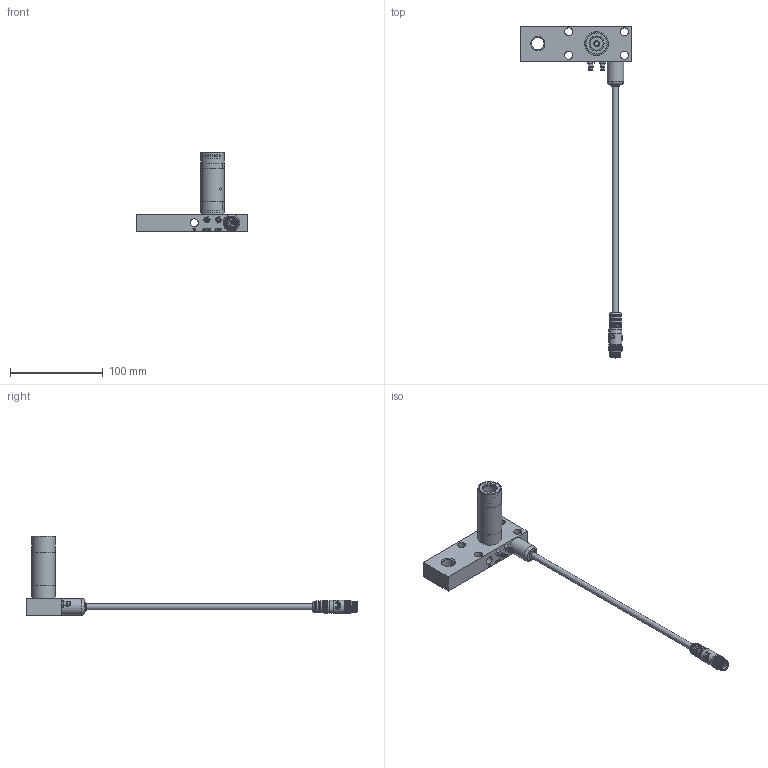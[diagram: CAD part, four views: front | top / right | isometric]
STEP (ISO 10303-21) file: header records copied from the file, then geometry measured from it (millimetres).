
FILE_DESCRIPTION(/* description */ ('ASSY,BODY,VF,IA,SXHR2,NHP_0002712496'),/* implementation_level */ '2;1');
FILE_NAME(/* name */ 'X:\ASSY,BODY,VF,IA,SXHR2,NHP_0002712496.stp',/* time_stamp */ '2021-07-07T13:02:22-04:00',/* author */ ('Simon.Britton'),/* organization */ (''),/* preprocessor_version */ 'ST-DEVELOPER v17',/* originating_system */ 'Autodesk Inventor 2019',/* authorisation */ '');
FILE_SCHEMA (('AUTOMOTIVE_DESIGN { 1 0 10303 214 3 1 1 }'));
Length unit declared in the file: centimetre
Products named in the file (1): ASSY,BODY,VF,IA,SXHR2,NHP
Bounding box: 120.65 x 358.79 x 85.72 mm (x, y, z)
Volume: 108367.8 mm3; surface area: 61614.8 mm2
Topology: 1 solids, 72 shells, 4061 faces, 9671 edges, 5817 vertices
Faces by surface type: bspline 2526, plane 751, cylinder 689, cone 62, torus 26, sphere 7
Full cylindrical faces by diameter (mm): 1 x5, 1.05 x5, 1.25 x10, 1.35 x5, 1.6 x10, 1.8 x5, 1.85 x5, 2 x1, 2.381 x2, 2.388 x8, 2.464 x1, 2.946 x2, 3 x1, 3.2 x1, 3.81 x2, 3.962 x6, 4.216 x4, 4.366 x1, 4.496 x2, 4.763 x2, 4.8 x3, 5.7 x1, 6.35 x4, 6.4 x1, 7 x1, 8.731 x8, 9.4 x1, 9.7 x2, 10.6 x2, 10.9 x1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
Entity records: 260181 total; most frequent: CARTESIAN_POINT 172880, ORIENTED_EDGE 19296, DIRECTION 13884, EDGE_CURVE 9648, AXIS2_PLACEMENT_3D 5857, VERTEX_POINT 5816, CIRCLE 4286, EDGE_LOOP 4261
